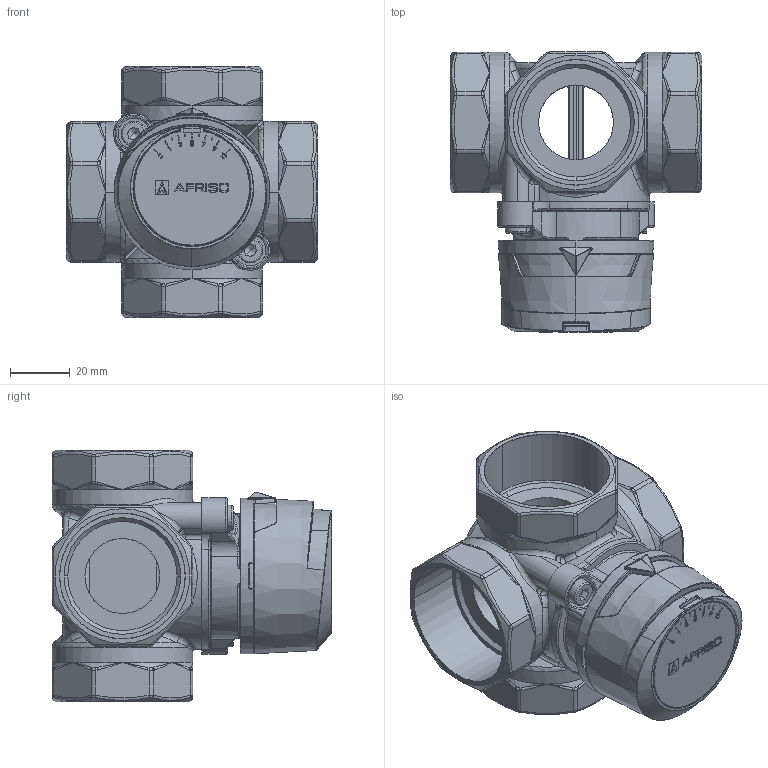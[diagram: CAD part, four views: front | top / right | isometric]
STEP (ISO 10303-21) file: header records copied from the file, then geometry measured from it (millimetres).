
FILE_DESCRIPTION (( 'STEP AP203' ), '1' );
FILE_NAME ('ARV_4_drogowy_obrotowy_zawor_mieszajacy_1348520_0_3D_AFRISO.STEP', '2024-11-25T13:04:14', ( '' ), ( '' ), 'SwSTEP 2.0', 'SolidWorks 2024', '' );
FILE_SCHEMA (( 'CONFIG_CONTROL_DESIGN' ));
Length unit declared in the file: millimetre
Products named in the file (21): 801 000 0202_O-Ring _X_F88,73x1,78mm EPDM; 801 000 0202_O-Ring _X_F88,73x1,78mm EPDM-0; 801 000 0251_O-Ring _X_F834,0x3,0mm EPDM 60_X_B15; ARV_4_drogowy_obrotowy_zawor_mieszajacy_1348520_0_3D_AFRISO; 05 01 000508_Einspritzbolzen M5x46; Baugruppe Mischerbet. _AFRISO-PL__Baugruppe; 05 01 001123_Lagerscheibe; 05 01 001112_Drehschieber ARV 4-W DN32-1; Bedruckung_R_X_FCckseite; 900084 0517_Zylinderschr. ISO 4762 - M5x16-2; 90014581 0516_Senkschr. ISO 14581 - M5x12; 05 00 000277_Skala 4-Wege Mischer beids.bedr.-3; 05 00 000271_Sockel Mischerbet. _AFRISO-PL_; 05 01 001121_Aufnahmesockel DN32; 05 00 000276_Handrad Mischerbet. GE_X_C4NDERT; Bedruckung_Vorderseite; 05 01 001107_Geh_X_E4use 4-Wege-Mischer DN32; 900084 0517_Zylinderschr. ISO 4762 - M5x16; 05 01 001112_Drehschieber ARV 4-W DN32; 05 00 000277_Skala 4-Wege Mischer beids.bedr.; 4-Wege-Mischer ARV DN32 _Baugruppe
Assembly tree (20 placements, depth 4):
  ARV_4_drogowy_obrotowy_zawor_mieszajacy_1348520_0_3D_AFRISO
    4-Wege-Mischer ARV DN32 _Baugruppe
      Baugruppe Mischerbet. _AFRISO-PL__Baugruppe
        05 00 000271_Sockel Mischerbet. _AFRISO-PL_
        90014581 0516_Senkschr. ISO 14581 - M5x12
        801 000 0202_O-Ring _X_F88,73x1,78mm EPDM
        801 000 0202_O-Ring _X_F88,73x1,78mm EPDM-0
        05 00 000276_Handrad Mischerbet. GE_X_C4NDERT
      05 01 001112_Drehschieber ARV 4-W DN32
        05 01 000508_Einspritzbolzen M5x46
        05 01 001112_Drehschieber ARV 4-W DN32-1
      801 000 0251_O-Ring _X_F834,0x3,0mm EPDM 60_X_B15
      05 01 001123_Lagerscheibe
      05 01 001107_Geh_X_E4use 4-Wege-Mischer DN32
      900084 0517_Zylinderschr. ISO 4762 - M5x16
      900084 0517_Zylinderschr. ISO 4762 - M5x16-2
      05 01 001121_Aufnahmesockel DN32
    05 00 000277_Skala 4-Wege Mischer beids.bedr.
      Bedruckung_Vorderseite
      Bedruckung_R_X_FCckseite
      05 00 000277_Skala 4-Wege Mischer beids.bedr.-3
Bounding box: 84 x 93.5 x 84 mm (x, y, z)
Volume: 118731.8 mm3; surface area: 95126.3 mm2
Topology: 68 solids, 68 shells, 5586 faces, 14775 edges, 9240 vertices
Faces by surface type: plane 3045, cylinder 952, bspline 624, torus 498, cone 259, sphere 208
Entity records: 412898 total; most frequent: CARTESIAN_POINT 279183, ORIENTED_EDGE 29164, DIRECTION 25125, EDGE_CURVE 14582, VERTEX_POINT 9187, VECTOR 9101, LINE 9101, AXIS2_PLACEMENT_3D 8012
